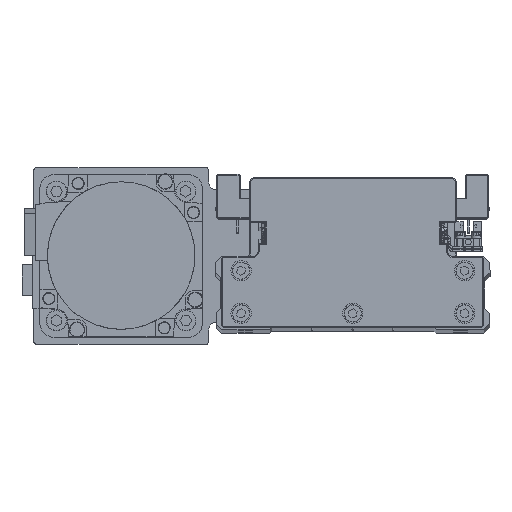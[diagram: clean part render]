
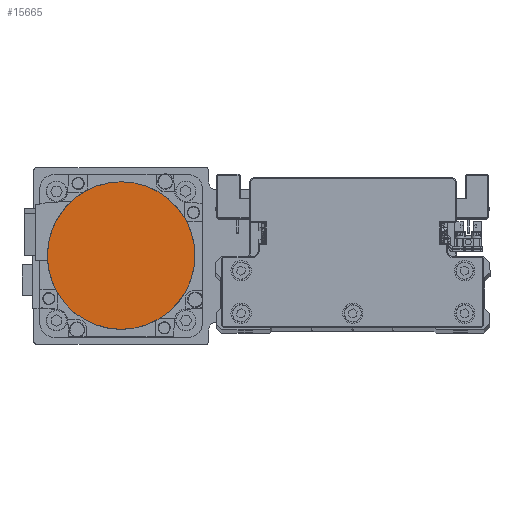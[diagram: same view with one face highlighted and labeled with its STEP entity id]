
A CAD part, top view. The second image highlights one B-rep face of the part: STEP entity #15665.
In plain terms, the highlighted planar face has unit normal (0, 0, 1) as drawn and (0, 0, -1) by its records, which use the part's own axes.
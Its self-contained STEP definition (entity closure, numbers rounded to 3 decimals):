
#3602 = DIRECTION ( 'NONE',  ( 0., -1., 0. ) ) ;
#5612 = CARTESIAN_POINT ( 'NONE',  ( 0., 36.3, -122.2 ) ) ;
#6270 = AXIS2_PLACEMENT_3D ( 'NONE', #19098, #31521, #3602 ) ;
#8131 = CARTESIAN_POINT ( 'NONE',  ( 0., 0., -122.2 ) ) ;
#11604 = VERTEX_POINT ( 'NONE', #33688 ) ;
#12024 = AXIS2_PLACEMENT_3D ( 'NONE', #8131, #20567, #32994 ) ;
#12307 = CARTESIAN_POINT ( 'NONE',  ( 0., 0., -122.2 ) ) ;
#12652 = AXIS2_PLACEMENT_3D ( 'NONE', #12307, #24716, #37161 ) ;
#15461 = EDGE_CURVE ( 'NONE', #24792, #11604, #30215, .T. ) ;
#15665 = ADVANCED_FACE ( 'NONE', ( #23618 ), #36052, .F. ) ;
#15829 = ORIENTED_EDGE ( 'NONE', *, *, #15461, .F. ) ;
#19098 = CARTESIAN_POINT ( 'NONE',  ( 0., 0., -122.2 ) ) ;
#20567 = DIRECTION ( 'NONE',  ( 0., 0., 1. ) ) ;
#23618 = FACE_OUTER_BOUND ( 'NONE', #36207, .T. ) ;
#23840 = CIRCLE ( 'NONE', #6270, 36.3 ) ;
#24465 = EDGE_CURVE ( 'NONE', #11604, #24792, #23840, .T. ) ;
#24716 = DIRECTION ( 'NONE',  ( 0., 0., 1. ) ) ;
#24792 = VERTEX_POINT ( 'NONE', #5612 ) ;
#30215 = CIRCLE ( 'NONE', #12652, 36.3 ) ;
#31521 = DIRECTION ( 'NONE',  ( 0., 0., 1. ) ) ;
#32994 = DIRECTION ( 'NONE',  ( 1., 0., 0. ) ) ;
#33688 = CARTESIAN_POINT ( 'NONE',  ( 0., -36.3, -122.2 ) ) ;
#34501 = ORIENTED_EDGE ( 'NONE', *, *, #24465, .F. ) ;
#36052 = PLANE ( 'NONE',  #12024 ) ;
#36207 = EDGE_LOOP ( 'NONE', ( #15829, #34501 ) ) ;
#37161 = DIRECTION ( 'NONE',  ( 0., 1., 0. ) ) ;
